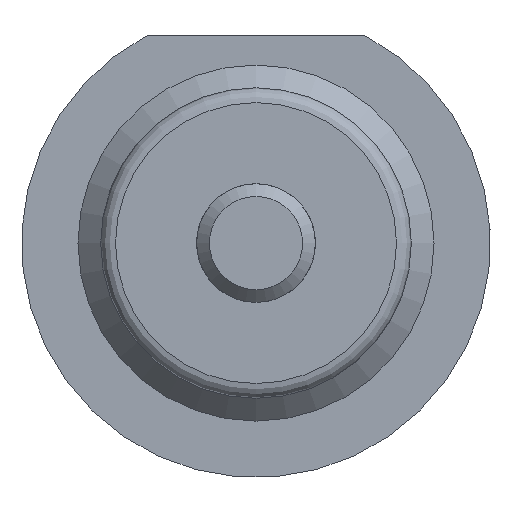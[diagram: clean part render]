
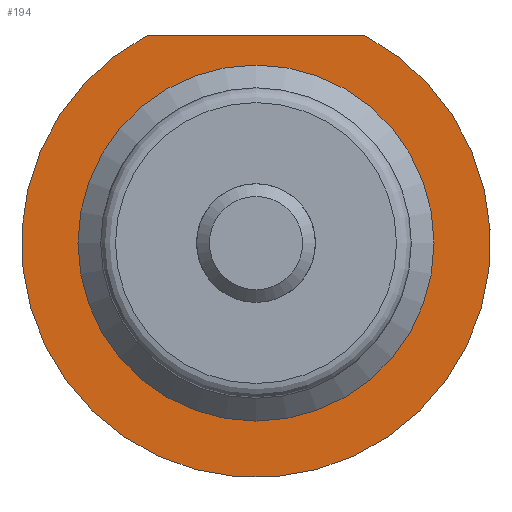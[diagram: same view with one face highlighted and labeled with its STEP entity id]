
A CAD part, left-side view. The second image highlights one B-rep face of the part: STEP entity #194.
In plain terms, the highlighted planar face has unit normal (-1, 0, 0).
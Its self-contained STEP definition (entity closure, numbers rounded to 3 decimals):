
#194 = ADVANCED_FACE( '', ( #315, #316 ), #317, .F. );
#315 = FACE_OUTER_BOUND( '', #507, .T. );
#316 = FACE_BOUND( '', #508, .T. );
#317 = PLANE( '', #509 );
#507 = EDGE_LOOP( '', ( #765, #766 ) );
#508 = EDGE_LOOP( '', ( #767 ) );
#509 = AXIS2_PLACEMENT_3D( '', #768, #769, #770 );
#765 = ORIENTED_EDGE( '', *, *, #1086, .F. );
#766 = ORIENTED_EDGE( '', *, *, #1087, .T. );
#767 = ORIENTED_EDGE( '', *, *, #1084, .T. );
#768 = CARTESIAN_POINT( '', ( 0., 6., 0. ) );
#769 = DIRECTION( '', ( 1., 0., 0. ) );
#770 = DIRECTION( '', ( 0., 0., -1. ) );
#1084 = EDGE_CURVE( '', #1220, #1220, #1221, .T. );
#1086 = EDGE_CURVE( '', #1224, #1225, #1226, .T. );
#1087 = EDGE_CURVE( '', #1224, #1225, #1227, .T. );
#1220 = VERTEX_POINT( '', #1499 );
#1221 = CIRCLE( '', #1500, 6. );
#1224 = VERTEX_POINT( '', #1503 );
#1225 = VERTEX_POINT( '', #1504 );
#1226 = CIRCLE( '', #1505, 7.9 );
#1227 = LINE( '', #1506, #1507 );
#1499 = CARTESIAN_POINT( '', ( 0., 0., -6. ) );
#1500 = AXIS2_PLACEMENT_3D( '', #1730, #1731, #1732 );
#1503 = CARTESIAN_POINT( '', ( 0., -3.662, 7. ) );
#1504 = CARTESIAN_POINT( '', ( 0., 3.662, 7. ) );
#1505 = AXIS2_PLACEMENT_3D( '', #1736, #1737, #1738 );
#1506 = CARTESIAN_POINT( '', ( 0., -22.6, 7. ) );
#1507 = VECTOR( '', #1739, 1000. );
#1730 = CARTESIAN_POINT( '', ( 0., 0., 0. ) );
#1731 = DIRECTION( '', ( 1., 0., 0. ) );
#1732 = DIRECTION( '', ( 0., 0., -1. ) );
#1736 = CARTESIAN_POINT( '', ( 0., 0., 0. ) );
#1737 = DIRECTION( '', ( 1., 0., 0. ) );
#1738 = DIRECTION( '', ( 0., 0., -1. ) );
#1739 = DIRECTION( '', ( 0., 1., 0. ) );
